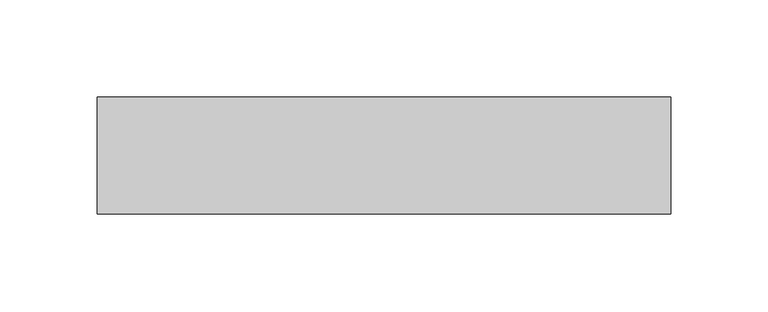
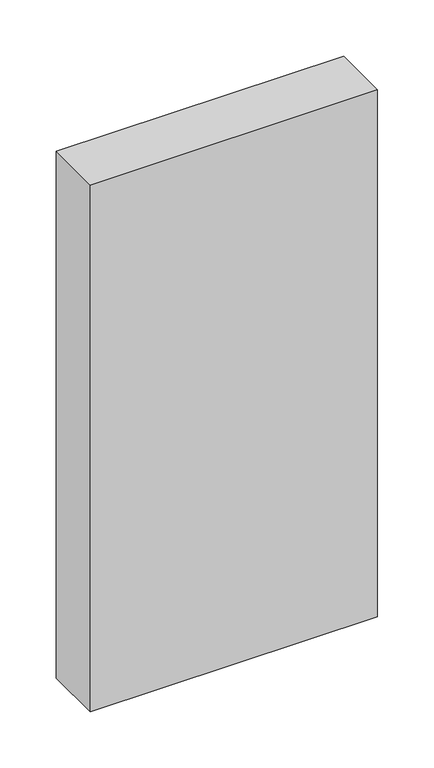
"""IFC4 building model written with IfcOpenShell, lengths in millimetres: plate geometry, Системная панель : Алюкобонд серый."""

from ifc_helpers import new_model, si_unit, origin, origin_with_axes, place, context, project, spatial, polyline, outline, extrude, source, transform, mapped, element, save


def plate_436d8df3(model_context):
    return source(origin(), model_context, "Body", "SweptSolid", [
        extrude(outline(polyline([(147.0, -10.5), (-147.0, -10.5), (-147.0, 49.5), (147.0, 49.5), (147.0, -10.5)])), origin_with_axes(), (0.0, 0.0, 1.0), 570.0),
    ])


if __name__ == "__main__":
    model = new_model("IFC4")
    model_context = context("Model", 3, world=origin())
    ifc_project = project(units=[si_unit("LENGTHUNIT", "METRE", prefix="MILLI")], contexts=[model_context])
    site = spatial("IfcSite", under=ifc_project)
    building = spatial("IfcBuilding", under=site)
    placement = place(None, origin())
    plate_shape = plate_436d8df3(model_context)
    element("IfcPlate", 1, ObjectType="Системная панель : Алюкобонд серый", at=placement, inside=building, context=model_context, shape_type="MappedRepresentation", body=[
        mapped(plate_shape, transform((0.0, 0.0, 0.0), x_axis=(1.0, 0.0, 0.0), y_axis=(0.0, 1.0, 0.0), z_axis=(0.0, 0.0, 1.0))),
    ])
    save(model, "model.ifc")
